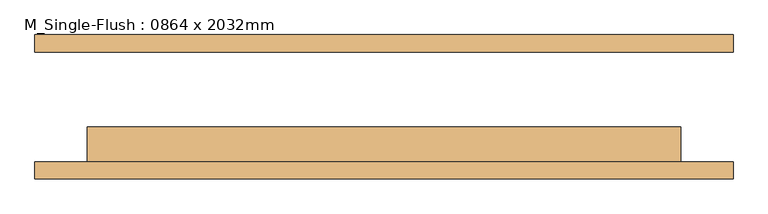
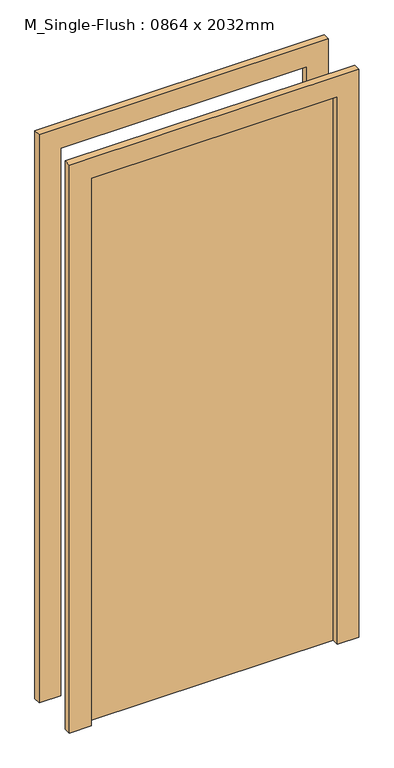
"""IFC4 building model written with IfcOpenShell, lengths in millimetres: door geometry, M_Single-Flush : 0864 x 2032mm."""

from ifc_helpers import new_model, si_unit, frame, origin, origin_with_axes, place, context, project, spatial, polyline, outline, extrude, source, transform, mapped, element, save


def m_single_flush_0864_x_2032mm_76ab4baa(model_context):
    return source(origin(), model_context, "Body", "SweptSolid", [
        extrude(outline(polyline([(2108.0, -508.0), (0.0, -508.0), (0.0, -432.0), (2032.0, -432.0), (2032.0, 432.0), (0.0, 432.0), (0.0, 508.0), (2108.0, 508.0), (2108.0, -508.0)])), frame((0.0, -105.0, 0.0), z_axis=(0.0, 1.0, 0.0), x_axis=(0.0, 0.0, 1.0)), (0.0, 0.0, 1.0), 25.0),
        extrude(outline(polyline([(2108.0, 508.0), (2108.0, -508.0), (0.0, -508.0), (0.0, -432.0), (2032.0, -432.0), (2032.0, 432.0), (0.0, 432.0), (0.0, 508.0), (2108.0, 508.0)])), frame((0.0, 80.0, 0.0), z_axis=(0.0, 1.0, 0.0), x_axis=(0.0, 0.0, 1.0)), (0.0, 0.0, 1.0), 25.0),
        extrude(outline(polyline([(432.0, -29.0), (432.0, -80.0), (-432.0, -80.0), (-432.0, -29.0), (432.0, -29.0)])), origin_with_axes(), (0.0, 0.0, 1.0), 2032.0),
    ])


if __name__ == "__main__":
    model = new_model("IFC4")
    model_context = context("Model", 3, world=origin())
    ifc_project = project(units=[si_unit("LENGTHUNIT", "METRE", prefix="MILLI")], contexts=[model_context])
    site = spatial("IfcSite", under=ifc_project)
    building = spatial("IfcBuilding", under=site)
    placement = place(None, origin())
    m_single_flush_0864_x_2032mm_shape = m_single_flush_0864_x_2032mm_76ab4baa(model_context)
    element("IfcDoor", 1, ObjectType="M_Single-Flush : 0864 x 2032mm", at=placement, inside=building, context=model_context, shape_type="MappedRepresentation", body=[
        mapped(m_single_flush_0864_x_2032mm_shape, transform((0.0, 0.0, 0.0), x_axis=(1.0, 0.0, 0.0), y_axis=(0.0, 1.0, 0.0), z_axis=(0.0, 0.0, 1.0))),
    ])
    save(model, "model.ifc")
